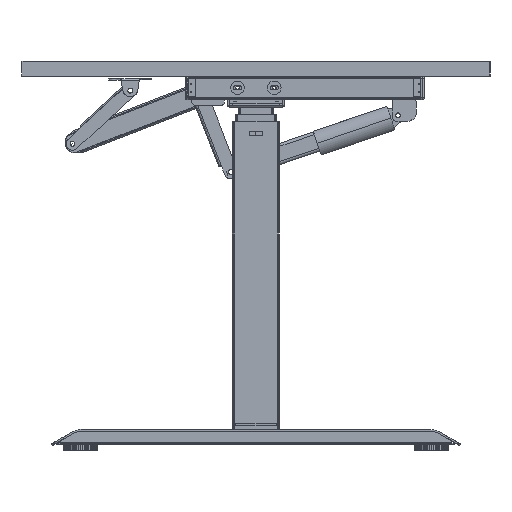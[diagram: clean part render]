
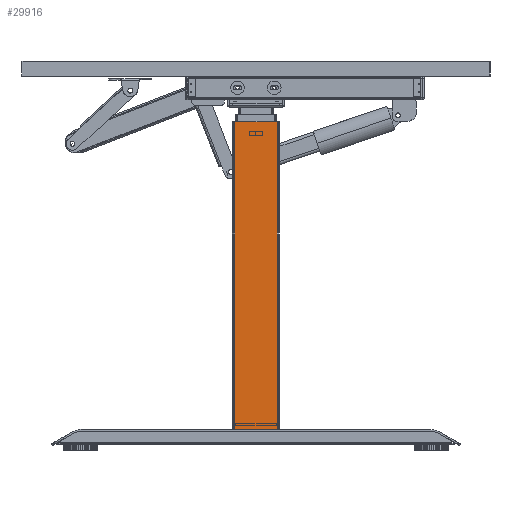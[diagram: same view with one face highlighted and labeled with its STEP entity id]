
A CAD part, front view. The second image highlights one B-rep face of the part: STEP entity #29916.
In plain terms, the highlighted planar face has unit normal (0, -1, 0) as drawn and (-1, 0, 0) by its records, which use the part's own axes.
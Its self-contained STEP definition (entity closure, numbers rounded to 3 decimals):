
#29802=CARTESIAN_POINT('Vertex',(-40.075,36.075,0.)) ;
#29805=CARTESIAN_POINT('Line Origine',(-40.075,36.075,263.)) ;
#29809=CARTESIAN_POINT('Vertex',(-40.075,36.075,526.)) ;
#29886=CARTESIAN_POINT('Axis2P3D Location',(-40.075,40.075,526.)) ;
#29891=CARTESIAN_POINT('Line Origine',(-40.075,-35.925,263.)) ;
#29895=CARTESIAN_POINT('Vertex',(-40.075,-35.925,526.)) ;
#29897=CARTESIAN_POINT('Vertex',(-40.075,-35.925,0.)) ;
#29900=CARTESIAN_POINT('Line Origine',(-40.075,0.075,526.)) ;
#29905=CARTESIAN_POINT('Line Origine',(-40.075,0.075,0.)) ;
#29806=DIRECTION('Vector Direction',(0.,0.,-1.)) ;
#29887=DIRECTION('Axis2P3D Direction',(1.,0.,0.)) ;
#29888=DIRECTION('Axis2P3D XDirection',(0.,-1.,0.)) ;
#29892=DIRECTION('Vector Direction',(0.,0.,-1.)) ;
#29901=DIRECTION('Vector Direction',(0.,-1.,0.)) ;
#29906=DIRECTION('Vector Direction',(0.,-1.,0.)) ;
#29889=AXIS2_PLACEMENT_3D('Plane Axis2P3D',#29886,#29887,#29888) ;
#29911=ORIENTED_EDGE('',*,*,#29899,.F.) ;
#29912=ORIENTED_EDGE('',*,*,#29904,.F.) ;
#29913=ORIENTED_EDGE('',*,*,#29811,.T.) ;
#29914=ORIENTED_EDGE('',*,*,#29909,.T.) ;
#29807=VECTOR('Line Direction',#29806,1.) ;
#29893=VECTOR('Line Direction',#29892,1.) ;
#29902=VECTOR('Line Direction',#29901,1.) ;
#29907=VECTOR('Line Direction',#29906,1.) ;
#29916=ADVANCED_FACE('\X2\96F64EF651E04F554F53\X0\',(#29915),#29890,.F.) ;
#29811=EDGE_CURVE('',#29810,#29803,#29808,.T.) ;
#29899=EDGE_CURVE('',#29896,#29898,#29894,.T.) ;
#29904=EDGE_CURVE('',#29810,#29896,#29903,.T.) ;
#29909=EDGE_CURVE('',#29803,#29898,#29908,.T.) ;
#29910=EDGE_LOOP('',(#29911,#29912,#29913,#29914)) ;
#29915=FACE_OUTER_BOUND('',#29910,.T.) ;
#29808=LINE('Line',#29805,#29807) ;
#29894=LINE('Line',#29891,#29893) ;
#29903=LINE('Line',#29900,#29902) ;
#29908=LINE('Line',#29905,#29907) ;
#29890=PLANE('',#29889) ;
#29803=VERTEX_POINT('',#29802) ;
#29810=VERTEX_POINT('',#29809) ;
#29896=VERTEX_POINT('',#29895) ;
#29898=VERTEX_POINT('',#29897) ;
